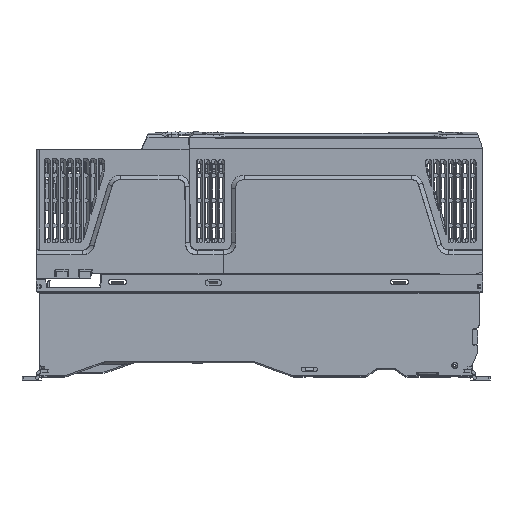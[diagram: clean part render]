
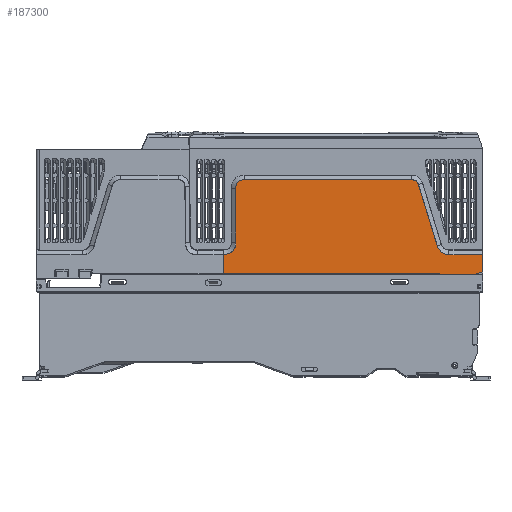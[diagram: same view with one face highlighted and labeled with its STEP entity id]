
A CAD part, left-side view. The second image highlights one B-rep face of the part: STEP entity #187300.
In plain terms, the highlighted planar face has unit normal (-1, 0, 0).
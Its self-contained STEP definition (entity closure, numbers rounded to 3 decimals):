
#159473=CARTESIAN_POINT('',(-41.5,31.65,30.977));
#159474=CARTESIAN_POINT('',(-41.5,31.262,
30.977));
#159475=CARTESIAN_POINT('',(-41.5,30.453,
31.004));
#159476=CARTESIAN_POINT('',(-41.5,29.118,
31.172));
#159477=CARTESIAN_POINT('',(-41.5,27.717,
31.523));
#159478=CARTESIAN_POINT('',(-41.5,26.424,
32.055));
#159479=CARTESIAN_POINT('',(-41.5,25.387,
32.668));
#159480=CARTESIAN_POINT('',(-41.5,24.526,
33.354));
#159481=CARTESIAN_POINT('',(-41.5,23.851,
34.048));
#159482=CARTESIAN_POINT('',(-41.5,23.283,
34.781));
#159483=CARTESIAN_POINT('',(-41.5,22.796,
35.583));
#159484=CARTESIAN_POINT('',(-41.5,22.392,
36.439));
#159485=CARTESIAN_POINT('',(-41.5,22.045,
37.419));
#159486=CARTESIAN_POINT('',(-41.5,21.779,
38.522));
#159487=CARTESIAN_POINT('',(-41.5,21.614,
39.736));
#159488=CARTESIAN_POINT('',(-41.5,21.577,
40.601));
#159489=CARTESIAN_POINT('',(-41.5,21.577,41.05));
#159491=DIRECTION('',(0.,0.,1.));
#159492=VECTOR('',#159491,44.);
#159493=CARTESIAN_POINT('',(-41.5,21.577,41.05));
#159494=LINE('',#159493,#159492);
#159495=CARTESIAN_POINT('',(-41.5,21.577,85.05));
#159496=CARTESIAN_POINT('',(-41.5,21.577,85.406));
#159497=CARTESIAN_POINT('',(-41.5,21.543,86.156));
#159498=CARTESIAN_POINT('',(-41.5,21.328,87.396));
#159499=CARTESIAN_POINT('',(-41.5,20.823,88.765));
#159500=CARTESIAN_POINT('',(-41.5,19.986,89.965));
#159501=CARTESIAN_POINT('',(-41.5,19.086,90.755));
#159502=CARTESIAN_POINT('',(-41.5,18.014,91.372));
#159503=CARTESIAN_POINT('',(-41.5,16.768,91.778));
#159504=CARTESIAN_POINT('',(-41.5,15.654,91.949));
#159505=CARTESIAN_POINT('',(-41.5,14.973,91.977));
#159506=CARTESIAN_POINT('',(-41.5,14.65,91.977));
#159508=DIRECTION('',(0.,-1.,0.));
#159509=VECTOR('',#159508,136.93);
#159510=CARTESIAN_POINT('',(-41.5,14.65,91.977));
#159511=LINE('',#159510,#159509);
#159512=CARTESIAN_POINT('',(-41.5,-122.281,91.977));
#159513=CARTESIAN_POINT('',(-41.5,-122.347,91.977));
#159514=CARTESIAN_POINT('',(-41.5,-122.486,91.975));
#159515=CARTESIAN_POINT('',(-41.5,-122.713,91.965));
#159516=CARTESIAN_POINT('',(-41.5,-122.961,91.943));
#159517=CARTESIAN_POINT('',(-41.5,-123.233,91.908));
#159518=CARTESIAN_POINT('',(-41.5,-123.532,91.855));
#159519=CARTESIAN_POINT('',(-41.5,-123.858,91.776));
#159520=CARTESIAN_POINT('',(-41.5,-124.211,91.667));
#159521=CARTESIAN_POINT('',(-41.5,-124.596,91.517));
#159522=CARTESIAN_POINT('',(-41.5,-125.012,91.313));
#159523=CARTESIAN_POINT('',(-41.5,-125.449,91.04));
#159524=CARTESIAN_POINT('',(-41.5,-125.872,90.708));
#159525=CARTESIAN_POINT('',(-41.5,-126.246,90.341));
#159526=CARTESIAN_POINT('',(-41.5,-126.55,89.975));
#159527=CARTESIAN_POINT('',(-41.5,-126.796,89.622));
#159528=CARTESIAN_POINT('',(-41.5,-126.995,89.286));
#159529=CARTESIAN_POINT('',(-41.5,-127.155,88.97));
#159530=CARTESIAN_POINT('',(-41.5,-127.284,88.673));
#159531=CARTESIAN_POINT('',(-41.5,-127.388,88.396));
#159532=CARTESIAN_POINT('',(-41.5,-127.445,88.221));
#159533=CARTESIAN_POINT('',(-41.5,-127.471,88.137));
#159535=DIRECTION('',(0.,0.292,0.956));
#159536=VECTOR('',#159535,52.318);
#159537=CARTESIAN_POINT('',(-41.5,-142.767,38.105));
#159538=LINE('',#159537,#159536);
#159539=CARTESIAN_POINT('',(-41.5,-142.767,38.105));
#159540=CARTESIAN_POINT('',(-41.5,-142.923,
37.595));
#159541=CARTESIAN_POINT('',(-41.5,-143.286,
36.632));
#159542=CARTESIAN_POINT('',(-41.5,-144.02,
35.302));
#159543=CARTESIAN_POINT('',(-41.5,-144.831,
34.234));
#159544=CARTESIAN_POINT('',(-41.5,-145.685,
33.367));
#159545=CARTESIAN_POINT('',(-41.5,-146.682,
32.593));
#159546=CARTESIAN_POINT('',(-41.5,-147.797,
31.952));
#159547=CARTESIAN_POINT('',(-41.5,-149.104,
31.429));
#159548=CARTESIAN_POINT('',(-41.5,-150.63,
31.067));
#159549=CARTESIAN_POINT('',(-41.5,-151.786,
30.977));
#159550=CARTESIAN_POINT('',(-41.5,-152.4,30.977));
#159552=DIRECTION('',(0.,-1.,0.));
#159553=VECTOR('',#159552,27.6);
#159554=CARTESIAN_POINT('',(-41.5,-152.4,30.977));
#159555=LINE('',#159554,#159553);
#159556=DIRECTION('',(0.,0.,-1.));
#159557=VECTOR('',#159556,14.177);
#159558=CARTESIAN_POINT('',(-41.5,-180.,30.977));
#159559=LINE('',#159558,#159557);
#159560=DIRECTION('',(0.,0.949,-0.316));
#159561=VECTOR('',#159560,6.325);
#159562=CARTESIAN_POINT('',(-41.5,-180.,16.8));
#159563=LINE('',#159562,#159561);
#159564=DIRECTION('',(0.,1.,0.));
#159565=VECTOR('',#159564,29.078);
#159566=CARTESIAN_POINT('',(-41.5,-174.,14.8));
#159567=LINE('',#159566,#159565);
#159568=DIRECTION('',(0.,0.017,1.));
#159569=VECTOR('',#159568,0.85);
#159570=CARTESIAN_POINT('',(-41.5,-144.922,14.8));
#159571=LINE('',#159570,#159569);
#159572=DIRECTION('',(0.,1.,0.));
#159573=VECTOR('',#159572,176.557);
#159574=CARTESIAN_POINT('',(-41.5,-144.907,15.65));
#159575=LINE('',#159574,#159573);
#159576=DIRECTION('',(0.,0.,1.));
#159577=VECTOR('',#159576,15.327);
#159578=CARTESIAN_POINT('',(-41.5,31.65,15.65));
#159579=LINE('',#159578,#159577);
#185944=VERTEX_POINT('',#159489);
#185945=VERTEX_POINT('',#159473);
#185946=CARTESIAN_POINT('',(-41.5,21.577,85.05));
#185947=VERTEX_POINT('',#185946);
#185950=VERTEX_POINT('',#159506);
#185952=CARTESIAN_POINT('',(-41.5,-122.281,91.977));
#185953=VERTEX_POINT('',#185952);
#185956=VERTEX_POINT('',#159533);
#185958=CARTESIAN_POINT('',(-41.5,-142.767,38.105));
#185959=VERTEX_POINT('',#185958);
#185962=VERTEX_POINT('',#159550);
#185965=CARTESIAN_POINT('',(-41.5,-180.,30.977));
#185967=VERTEX_POINT('',#185965);
#186741=CARTESIAN_POINT('',(-41.5,31.65,15.65));
#186742=CARTESIAN_POINT('',(-41.5,-144.907,15.65));
#186743=VERTEX_POINT('',#186741);
#186744=VERTEX_POINT('',#186742);
#186745=CARTESIAN_POINT('',(-41.5,-144.922,14.8));
#186746=VERTEX_POINT('',#186745);
#186789=CARTESIAN_POINT('',(-41.5,-174.,14.8));
#186790=CARTESIAN_POINT('',(-41.5,-180.,16.8));
#186791=VERTEX_POINT('',#186789);
#186792=VERTEX_POINT('',#186790);
#187265=CARTESIAN_POINT('',(-41.5,59.63,16.05));
#187266=DIRECTION('',(-1.,0.,0.));
#187267=DIRECTION('',(0.,-1.,0.));
#187268=AXIS2_PLACEMENT_3D('',#187265,#187266,#187267);
#187269=PLANE('',#187268);
#187271=ORIENTED_EDGE('',*,*,#187270,.T.);
#187273=ORIENTED_EDGE('',*,*,#187272,.T.);
#187275=ORIENTED_EDGE('',*,*,#187274,.T.);
#187277=ORIENTED_EDGE('',*,*,#187276,.T.);
#187279=ORIENTED_EDGE('',*,*,#187278,.T.);
#187281=ORIENTED_EDGE('',*,*,#187280,.F.);
#187283=ORIENTED_EDGE('',*,*,#187282,.T.);
#187285=ORIENTED_EDGE('',*,*,#187284,.T.);
#187287=ORIENTED_EDGE('',*,*,#187286,.T.);
#187289=ORIENTED_EDGE('',*,*,#187288,.T.);
#187291=ORIENTED_EDGE('',*,*,#187290,.T.);
#187293=ORIENTED_EDGE('',*,*,#187292,.T.);
#187295=ORIENTED_EDGE('',*,*,#187294,.T.);
#187297=ORIENTED_EDGE('',*,*,#187296,.T.);
#187298=EDGE_LOOP('',(#187271,#187273,#187275,#187277,#187279,#187281,#187283,
#187285,#187287,#187289,#187291,#187293,#187295,#187297));
#187299=FACE_OUTER_BOUND('',#187298,.F.);
#187300=ADVANCED_FACE('',(#187299),#187269,.T.);
#159490=B_SPLINE_CURVE_WITH_KNOTS('',3,(#159473,#159474,#159475,#159476,#159477,
#159478,#159479,#159480,#159481,#159482,#159483,#159484,#159485,#159486,#159487,
#159488,#159489),.UNSPECIFIED.,.F.,.F.,(4,1,1,1,1,1,1,1,1,1,1,1,1,1,4),(0.,
0.071,0.143,0.214,0.286,
0.357,0.429,0.5,0.571,0.643,
0.714,0.786,0.857,0.929,1.),
.UNSPECIFIED.);
#159507=B_SPLINE_CURVE_WITH_KNOTS('',3,(#159495,#159496,#159497,#159498,#159499,
#159500,#159501,#159502,#159503,#159504,#159505,#159506),.UNSPECIFIED.,.F.,.F.,(
4,1,1,1,1,1,1,1,1,4),(0.,0.111,0.222,
0.333,0.444,0.556,0.667,
0.778,0.889,1.),.UNSPECIFIED.);
#159534=B_SPLINE_CURVE_WITH_KNOTS('',3,(#159512,#159513,#159514,#159515,#159516,
#159517,#159518,#159519,#159520,#159521,#159522,#159523,#159524,#159525,#159526,
#159527,#159528,#159529,#159530,#159531,#159532,#159533),.UNSPECIFIED.,.F.,.F.,(
4,1,1,1,1,1,1,1,1,1,1,1,1,1,1,1,1,1,1,4),(0.,0.053,
0.105,0.158,0.211,0.263,
0.316,0.368,0.421,0.474,
0.526,0.579,0.632,0.684,
0.737,0.789,0.842,0.895,
0.947,1.),.UNSPECIFIED.);
#159551=B_SPLINE_CURVE_WITH_KNOTS('',3,(#159539,#159540,#159541,#159542,#159543,
#159544,#159545,#159546,#159547,#159548,#159549,#159550),.UNSPECIFIED.,.F.,.F.,(
4,1,1,1,1,1,1,1,1,4),(0.,0.111,0.222,
0.333,0.444,0.556,0.667,
0.778,0.889,1.),.UNSPECIFIED.);
#187270=EDGE_CURVE('',#185945,#185944,#159490,.T.);
#187272=EDGE_CURVE('',#185944,#185947,#159494,.T.);
#187274=EDGE_CURVE('',#185947,#185950,#159507,.T.);
#187276=EDGE_CURVE('',#185950,#185953,#159511,.T.);
#187278=EDGE_CURVE('',#185953,#185956,#159534,.T.);
#187280=EDGE_CURVE('',#185959,#185956,#159538,.T.);
#187282=EDGE_CURVE('',#185959,#185962,#159551,.T.);
#187284=EDGE_CURVE('',#185962,#185967,#159555,.T.);
#187286=EDGE_CURVE('',#185967,#186792,#159559,.T.);
#187288=EDGE_CURVE('',#186792,#186791,#159563,.T.);
#187290=EDGE_CURVE('',#186791,#186746,#159567,.T.);
#187292=EDGE_CURVE('',#186746,#186744,#159571,.T.);
#187294=EDGE_CURVE('',#186744,#186743,#159575,.T.);
#187296=EDGE_CURVE('',#186743,#185945,#159579,.T.);
